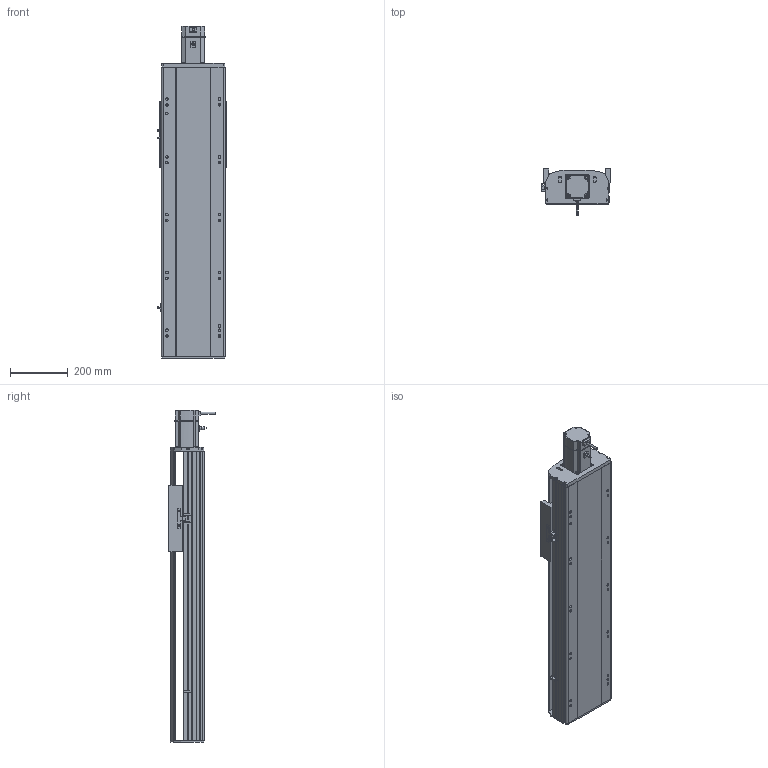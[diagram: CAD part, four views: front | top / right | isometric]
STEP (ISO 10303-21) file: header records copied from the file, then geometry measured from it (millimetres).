
FILE_DESCRIPTION (( 'STEP AP214' ), '1' );
FILE_NAME ('RTH22-XX-600-E-M75-C4.STEP', '2025-10-24T10:44:09', ( 'Microsoft' ), ( 'Microsoft' ), 'SwSTEP 2.0', 'SolidWorks 2018', '' );
FILE_SCHEMA (( 'AUTOMOTIVE_DESIGN' ));
Length unit declared in the file: millimetre
Products named in the file (9): N_RTH22-E-007奻裔^RTH22-XX-XX-E-M75-C4; N_RTH22-E-008萇儂啣^RTH22-XX-XX-E-M75-C4; N_RTH22-E-011菁釱^RTH22-XX-XX-E-M75-C4; N_RTH22-GY-013外置感应片^RTH22-XX-XX-E-M75-C4; N_OMRON EE-SX672 传感器^RTH22-XX-XX-E-M75-C4; N_750W萇儂^RTH22-XX-XX-E-M75-C4; RTH22-XX-600-E-M75-C4; N_RTH22-GY-001耜裔^RTH22-XX-XX-E-M75-C4; N_RTH22-E-004-SFS25賑釱^RTH22-XX-XX-E-M75-C4
Assembly tree (10 placements, depth 2):
  RTH22-XX-600-E-M75-C4
    N_RTH22-E-011菁釱^RTH22-XX-XX-E-M75-C4
    N_RTH22-GY-001耜裔^RTH22-XX-XX-E-M75-C4
    N_RTH22-E-008萇儂啣^RTH22-XX-XX-E-M75-C4
    N_RTH22-E-007奻裔^RTH22-XX-XX-E-M75-C4
    N_RTH22-GY-013外置感应片^RTH22-XX-XX-E-M75-C4
    N_RTH22-E-004-SFS25賑釱^RTH22-XX-XX-E-M75-C4
    N_750W萇儂^RTH22-XX-XX-E-M75-C4
    N_OMRON EE-SX672 传感器^RTH22-XX-XX-E-M75-C4  x3
Bounding box: 238.5 x 160.7 x 1149 mm (x, y, z)
Volume: 14752832.9 mm3; surface area: 1546388.9 mm2
Topology: 10 solids, 10 shells, 1505 faces, 4124 edges, 2669 vertices
Faces by surface type: plane 752, cylinder 424, bspline 279, cone 50
Entity records: 37203 total; most frequent: CARTESIAN_POINT 11737, ORIENTED_EDGE 5240, DIRECTION 4886, EDGE_CURVE 2620, VERTEX_POINT 1705, AXIS2_PLACEMENT_3D 1630, LINE 1626, VECTOR 1626
